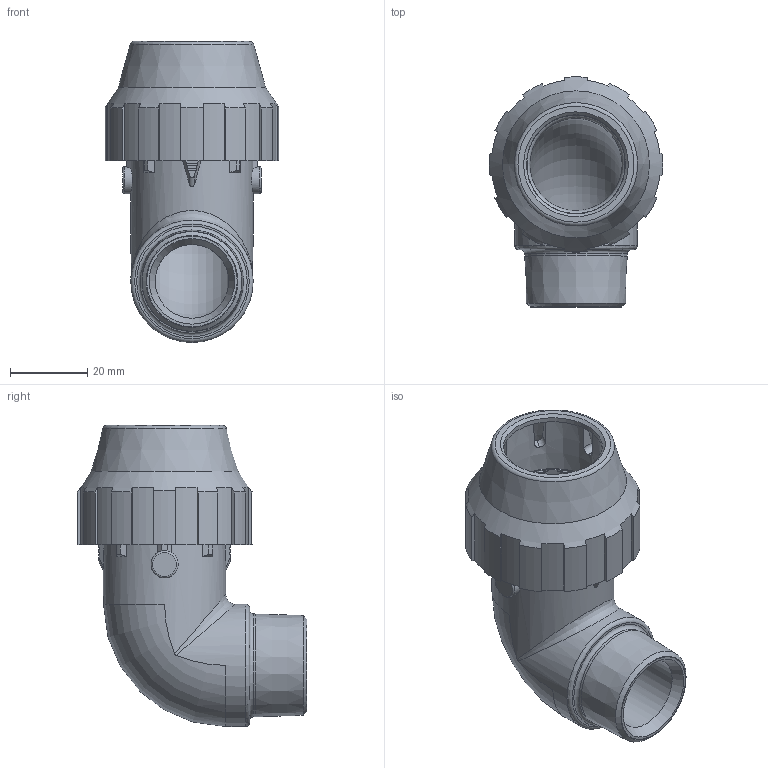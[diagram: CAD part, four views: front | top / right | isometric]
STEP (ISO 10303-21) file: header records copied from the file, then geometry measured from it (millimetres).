
FILE_DESCRIPTION( ( 'STEP AP214' ), '1' );
FILE_NAME( ' ', ' ', ( ' ' ), ( ' ' ), 'PSStep 11.0', 'VISI 17.0', ' ' );
FILE_SCHEMA( ( 'AUTOMOTIVE_DESIGN { 1 0 10303 214 1 1 1 1 }' ) );
Length unit declared in the file: millimetre
Products named in the file (19): 1; 2; 3; 4; 5; 6; 7; 8; 9; 10; 11; 12; 13; 14; 15; 16; 17; 18; 19
Bounding box: 44.98 x 59.69 x 78.17 mm (x, y, z)
Volume: 46761.9 mm3; surface area: 42943.5 mm2
Topology: 19 solids, 19 shells, 490 faces, 1354 edges, 898 vertices
Faces by surface type: plane 200, cylinder 127, cone 85, torus 53, bspline 25
Full cylindrical faces by diameter (mm): 7.042 x2, 19.109 x1, 24 x1, 25.7 x2, 25.9 x1, 31.751 x2, 32 x1, 33.5 x1, 35.9 x1, 36 x1, 40 x1
Entity records: 22783 total; most frequent: CARTESIAN_POINT 6772, ORIENTED_EDGE 2556, DIRECTION 2355, EDGE_CURVE 1278, AXIS2_PLACEMENT_3D 970, VERTEX_POINT 874, EDGE_LOOP 556, FACE_OUTER_BOUND 513
